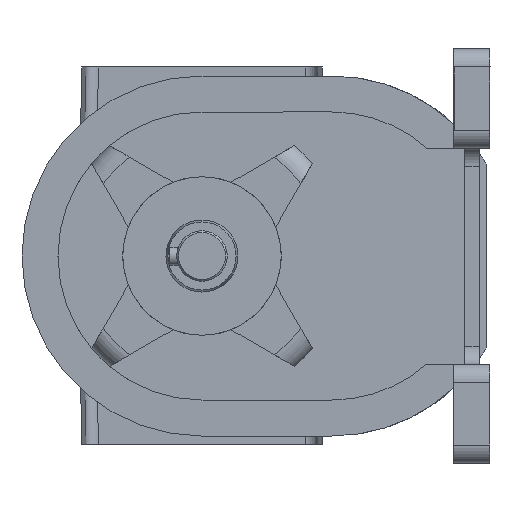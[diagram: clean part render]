
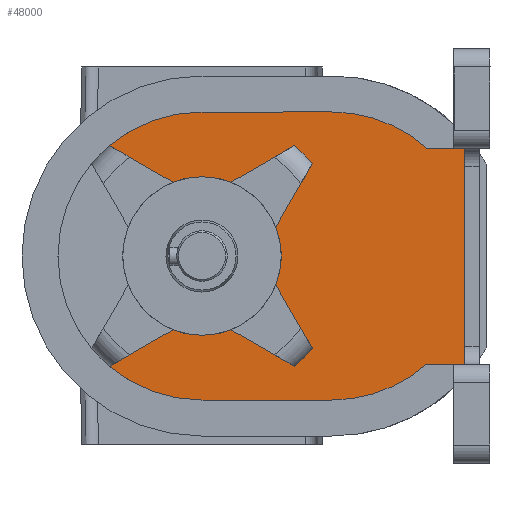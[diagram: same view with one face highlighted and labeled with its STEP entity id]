
A CAD part, left-side view. The second image highlights one B-rep face of the part: STEP entity #48000.
In plain terms, the highlighted planar face has unit normal (-1, 0, 0) as drawn and (0, 1, -0.026) by its records, which use the part's own axes.
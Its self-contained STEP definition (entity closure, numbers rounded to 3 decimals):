
#41470=CARTESIAN_POINT('',(-94.,650.975,
-209.639));
#41480=VERTEX_POINT('',#41470);
#43420=CARTESIAN_POINT('',(-94.,650.897,
-212.638));
#43430=VERTEX_POINT('',#43420);
#43760=CARTESIAN_POINT('',(-34.,650.897,
-212.638));
#43770=VERTEX_POINT('',#43760);
#43800=CARTESIAN_POINT('',(-75.28,650.897,
-212.638));
#43810=DIRECTION('',(-1.,0.,0.));
#43820=VECTOR('',#43810,1.);
#43830=LINE('',#43800,#43820);
#43840=EDGE_CURVE('',#43770,#43430,#43830,.T.);
#44200=CARTESIAN_POINT('',(-33.333,652.135,
-165.335));
#44210=VERTEX_POINT('',#44200);
#44390=CARTESIAN_POINT('',(-38.318,652.005,
-170.319));
#44400=VERTEX_POINT('',#44390);
#44430=CARTESIAN_POINT('',(-64.,652.808,
-139.663));
#44440=DIRECTION('',(0.,1.,
-0.026));
#44450=DIRECTION('',(-1.,0.,0.));
#44460=AXIS2_PLACEMENT_3D('',#44430,#44440,#44450);
#44470=CIRCLE('',#44460,40.);
#44480=EDGE_CURVE('',#44210,#44400,#44470,.T.);
#45810=CARTESIAN_POINT('',(-55.963,652.272,
-160.135));
#45820=VERTEX_POINT('',#45810);
#45850=CARTESIAN_POINT('',(-75.28,652.564,
-148.986));
#45860=DIRECTION('',(-0.866,0.013,
0.5));
#45870=VECTOR('',#45860,1.);
#45880=LINE('',#45850,#45870);
#45890=EDGE_CURVE('',#44400,#45820,#45880,.T.);
#46280=CARTESIAN_POINT('',(-54.5,652.131,
-165.498));
#46290=DIRECTION('',(0.,1.,
-0.026));
#46300=DIRECTION('',(-1.,0.,0.));
#46310=AXIS2_PLACEMENT_3D('',#46280,#46290,#46300);
#46320=PLANE('',#46310);
#46330=ORIENTED_EDGE('',*,*,#44480,.F.);
#46340=ORIENTED_EDGE('',*,*,#45890,.F.);
#46350=CARTESIAN_POINT('',(-64.,652.808,
-139.663));
#46360=DIRECTION('',(0.,1.,
-0.026));
#46370=DIRECTION('',(-1.,0.,0.));
#46380=AXIS2_PLACEMENT_3D('',#46350,#46360,#46370);
#46390=CIRCLE('',#46380,22.);
#46400=CARTESIAN_POINT('',(-72.037,652.272,
-160.135));
#46410=VERTEX_POINT('',#46400);
#46420=EDGE_CURVE('',#45820,#46410,#46390,.T.);
#46430=ORIENTED_EDGE('',*,*,#46420,.F.);
#46440=CARTESIAN_POINT('',(-75.28,652.223,
-162.007));
#46450=DIRECTION('',(-0.866,-0.013,
-0.5));
#46460=VECTOR('',#46450,1.);
#46470=LINE('',#46440,#46460);
#46480=CARTESIAN_POINT('',(-89.682,652.005,
-170.319));
#46490=VERTEX_POINT('',#46480);
#46500=EDGE_CURVE('',#46410,#46490,#46470,.T.);
#46510=ORIENTED_EDGE('',*,*,#46500,.F.);
#46520=CARTESIAN_POINT('',(-64.,652.808,
-139.663));
#46530=DIRECTION('',(0.,1.,
-0.026));
#46540=DIRECTION('',(-1.,0.,0.));
#46550=AXIS2_PLACEMENT_3D('',#46520,#46530,#46540);
#46560=CIRCLE('',#46550,40.);
#46570=CARTESIAN_POINT('',(-94.667,652.135,
-165.335));
#46580=VERTEX_POINT('',#46570);
#46590=EDGE_CURVE('',#46490,#46580,#46560,.T.);
#46600=ORIENTED_EDGE('',*,*,#46590,.F.);
#46610=CARTESIAN_POINT('',(-103.119,651.752,
-179.97));
#46620=DIRECTION('',(0.5,0.023,
0.866));
#46630=VECTOR('',#46620,1.);
#46640=LINE('',#46610,#46630);
#46650=CARTESIAN_POINT('',(-84.479,652.597,
-147.697));
#46660=VERTEX_POINT('',#46650);
#46670=EDGE_CURVE('',#46580,#46660,#46640,.T.);
#46680=ORIENTED_EDGE('',*,*,#46670,.F.);
#46690=CARTESIAN_POINT('',(-64.,652.808,
-139.663));
#46700=DIRECTION('',(0.,1.,
-0.026));
#46710=DIRECTION('',(-1.,0.,0.));
#46720=AXIS2_PLACEMENT_3D('',#46690,#46700,#46710);
#46730=CIRCLE('',#46720,22.);
#46740=CARTESIAN_POINT('',(-86.,652.808,
-139.663));
#46750=VERTEX_POINT('',#46740);
#46760=EDGE_CURVE('',#46660,#46750,#46730,.T.);
#46770=ORIENTED_EDGE('',*,*,#46760,.F.);
#46780=CARTESIAN_POINT('',(-84.479,653.018,
-131.629));
#46790=VERTEX_POINT('',#46780);
#46800=EDGE_CURVE('',#46750,#46790,#46730,.T.);
#46810=ORIENTED_EDGE('',*,*,#46800,.F.);
#46820=CARTESIAN_POINT('',(-56.56,651.752,
-179.97));
#46830=DIRECTION('',(-0.5,0.023,
0.866));
#46840=VECTOR('',#46830,1.);
#46850=LINE('',#46820,#46840);
#46860=CARTESIAN_POINT('',(-94.667,653.48,
-113.99));
#46870=VERTEX_POINT('',#46860);
#46880=EDGE_CURVE('',#46790,#46870,#46850,.T.);
#46890=ORIENTED_EDGE('',*,*,#46880,.F.);
#46900=CARTESIAN_POINT('',(-64.,652.808,
-139.663));
#46910=DIRECTION('',(0.,1.,
-0.026));
#46920=DIRECTION('',(-1.,0.,0.));
#46930=AXIS2_PLACEMENT_3D('',#46900,#46910,#46920);
#46940=CIRCLE('',#46930,40.);
#46950=CARTESIAN_POINT('',(-104.,652.808,
-139.663));
#46960=VERTEX_POINT('',#46950);
#46970=EDGE_CURVE('',#46960,#46870,#46940,.T.);
#46980=ORIENTED_EDGE('',*,*,#46970,.T.);
#46990=CARTESIAN_POINT('',(-104.,652.808,
-139.663));
#47000=DIRECTION('',(0.,-0.026,
-1.));
#47010=VECTOR('',#47000,1.);
#47020=LINE('',#46990,#47010);
#47030=CARTESIAN_POINT('',(-104.,651.865,
-175.65));
#47040=VERTEX_POINT('',#47030);
#47050=EDGE_CURVE('',#46960,#47040,#47020,.T.);
#47060=ORIENTED_EDGE('',*,*,#47050,.F.);
#47070=CARTESIAN_POINT('',(-64.,651.865,
-175.65));
#47080=DIRECTION('',(0.,1.,
-0.026));
#47090=DIRECTION('',(-1.,0.,0.));
#47100=AXIS2_PLACEMENT_3D('',#47070,#47080,#47090);
#47110=CIRCLE('',#47100,40.);
#47120=CARTESIAN_POINT('',(-94.,651.173,
-202.099));
#47130=VERTEX_POINT('',#47120);
#47140=EDGE_CURVE('',#47130,#47040,#47110,.T.);
#47150=ORIENTED_EDGE('',*,*,#47140,.T.);
#47160=CARTESIAN_POINT('',(-94.,651.752,
-179.97));
#47170=DIRECTION('',(0.,-0.026,
-1.));
#47180=VECTOR('',#47170,1.);
#47190=LINE('',#47160,#47180);
#47200=EDGE_CURVE('',#47130,#41480,#47190,.T.);
#47210=ORIENTED_EDGE('',*,*,#47200,.F.);
#47220=CARTESIAN_POINT('',(-94.,651.752,
-179.97));
#47230=DIRECTION('',(0.,0.026,
1.));
#47240=VECTOR('',#47230,1.);
#47250=LINE('',#47220,#47240);
#47260=EDGE_CURVE('',#43430,#41480,#47250,.T.);
#47270=ORIENTED_EDGE('',*,*,#47260,.T.);
#47280=ORIENTED_EDGE('',*,*,#43840,.T.);
#47290=CARTESIAN_POINT('',(-34.,651.752,
-179.97));
#47300=DIRECTION('',(0.,-0.026,
-1.));
#47310=VECTOR('',#47300,1.);
#47320=LINE('',#47290,#47310);
#47330=CARTESIAN_POINT('',(-34.,650.975,
-209.639));
#47340=VERTEX_POINT('',#47330);
#47350=EDGE_CURVE('',#47340,#43770,#47320,.T.);
#47360=ORIENTED_EDGE('',*,*,#47350,.T.);
#47370=CARTESIAN_POINT('',(-34.,651.752,
-179.97));
#47380=DIRECTION('',(0.,0.026,
1.));
#47390=VECTOR('',#47380,1.);
#47400=LINE('',#47370,#47390);
#47410=CARTESIAN_POINT('',(-34.,651.173,
-202.099));
#47420=VERTEX_POINT('',#47410);
#47430=EDGE_CURVE('',#47340,#47420,#47400,.T.);
#47440=ORIENTED_EDGE('',*,*,#47430,.F.);
#47450=CARTESIAN_POINT('',(-64.,651.865,
-175.65));
#47460=DIRECTION('',(0.,1.,
-0.026));
#47470=DIRECTION('',(-1.,0.,0.));
#47480=AXIS2_PLACEMENT_3D('',#47450,#47460,#47470);
#47490=CIRCLE('',#47480,40.);
#47500=CARTESIAN_POINT('',(-24.,651.865,
-175.65));
#47510=VERTEX_POINT('',#47500);
#47520=EDGE_CURVE('',#47510,#47420,#47490,.T.);
#47530=ORIENTED_EDGE('',*,*,#47520,.T.);
#47540=CARTESIAN_POINT('',(-24.,652.808,
-139.663));
#47550=DIRECTION('',(0.,-0.026,
-1.));
#47560=VECTOR('',#47550,1.);
#47570=LINE('',#47540,#47560);
#47580=CARTESIAN_POINT('',(-24.,652.808,
-139.663));
#47590=VERTEX_POINT('',#47580);
#47600=EDGE_CURVE('',#47590,#47510,#47570,.T.);
#47610=ORIENTED_EDGE('',*,*,#47600,.T.);
#47620=CARTESIAN_POINT('',(-64.,652.808,
-139.663));
#47630=DIRECTION('',(0.,1.,
-0.026));
#47640=DIRECTION('',(-1.,0.,0.));
#47650=AXIS2_PLACEMENT_3D('',#47620,#47630,#47640);
#47660=CIRCLE('',#47650,40.);
#47670=CARTESIAN_POINT('',(-33.333,653.48,
-113.99));
#47680=VERTEX_POINT('',#47670);
#47690=EDGE_CURVE('',#47680,#47590,#47660,.T.);
#47700=ORIENTED_EDGE('',*,*,#47690,.T.);
#47710=CARTESIAN_POINT('',(-71.44,651.752,
-179.97));
#47720=DIRECTION('',(0.5,0.023,
0.866));
#47730=VECTOR('',#47720,1.);
#47740=LINE('',#47710,#47730);
#47750=CARTESIAN_POINT('',(-43.52,653.018,
-131.629));
#47760=VERTEX_POINT('',#47750);
#47770=EDGE_CURVE('',#47760,#47680,#47740,.T.);
#47780=ORIENTED_EDGE('',*,*,#47770,.T.);
#47790=CARTESIAN_POINT('',(-64.,652.808,
-139.663));
#47800=DIRECTION('',(0.,1.,
-0.026));
#47810=DIRECTION('',(-1.,0.,0.));
#47820=AXIS2_PLACEMENT_3D('',#47790,#47800,#47810);
#47830=CIRCLE('',#47820,22.);
#47840=CARTESIAN_POINT('',(-42.,652.808,
-139.663));
#47850=VERTEX_POINT('',#47840);
#47860=EDGE_CURVE('',#47760,#47850,#47830,.T.);
#47870=ORIENTED_EDGE('',*,*,#47860,.F.);
#47880=CARTESIAN_POINT('',(-43.52,652.597,
-147.697));
#47890=VERTEX_POINT('',#47880);
#47900=EDGE_CURVE('',#47850,#47890,#47830,.T.);
#47910=ORIENTED_EDGE('',*,*,#47900,.F.);
#47920=CARTESIAN_POINT('',(-24.881,651.752,
-179.97));
#47930=DIRECTION('',(0.5,-0.023,
-0.866));
#47940=VECTOR('',#47930,1.);
#47950=LINE('',#47920,#47940);
#47960=EDGE_CURVE('',#47890,#44210,#47950,.T.);
#47970=ORIENTED_EDGE('',*,*,#47960,.F.);
#47980=EDGE_LOOP('',(#47970,#47910,#47870,#47780,#47700,#47610,#47530,
#47440,#47360,#47280,#47270,#47210,#47150,#47060,#46980,#46890,#46810,
#46770,#46680,#46600,#46510,#46430,#46340,#46330));
#47990=FACE_OUTER_BOUND('',#47980,.T.);
#48000=ADVANCED_FACE('',(#47990),#46320,.T.);
